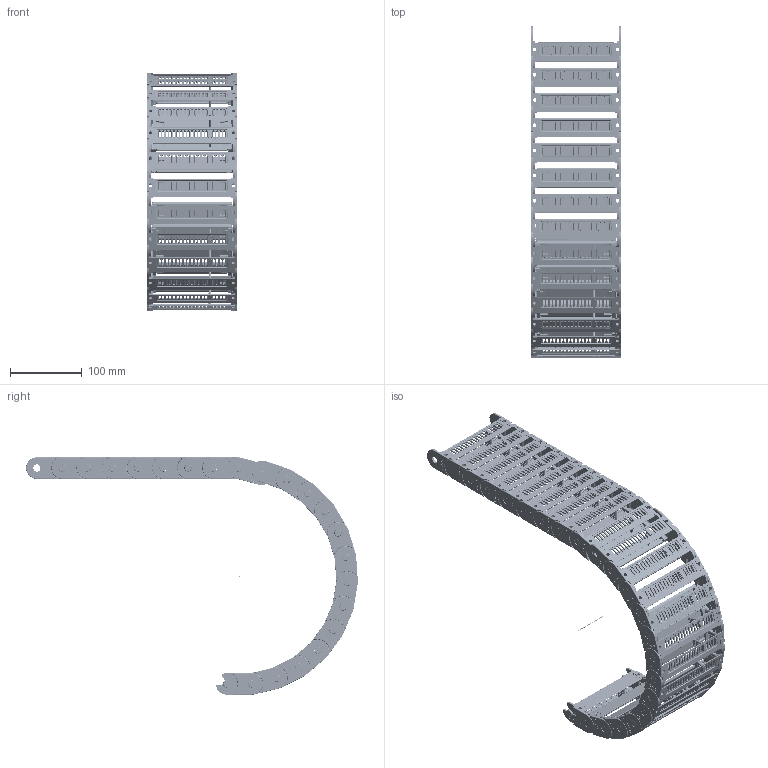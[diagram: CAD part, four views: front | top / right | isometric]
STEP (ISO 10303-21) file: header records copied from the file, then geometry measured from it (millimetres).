
FILE_DESCRIPTION((''),'2;1');
FILE_NAME('C:\Uebbing\PARAMETERKETTEN\KOLIBRI\Kol_30_125_0\Kol 30_125_0_R150.stp','2012-03-05T12:28:31',('Uebbing'),(''),'Autodesk Inventor 10','Autodesk Inventor 10','');
FILE_SCHEMA(('AUTOMOTIVE_DESIGN { 1 0 10303 214 1 1 1 1 }'));
Length unit declared in the file: millimetre
Products named in the file (6): KOLIBRI 30_125_0_PARAMETRISCH; Achse; Kol_30_125_0; PZ 30 Stecksteg; Kol_30_125_0_Klappsteg; Kol 30_125_0 Lasche
Assembly tree (26 placements, depth 3):
  KOLIBRI 30_125_0_PARAMETRISCH
    Achse
    Kol_30_125_0  x22
      PZ 30 Stecksteg
      Kol_30_125_0_Klappsteg
      Kol 30_125_0 Lasche
Bounding box: 125 x 461.11 x 330 mm (x, y, z)
Volume: 519010.1 mm3; surface area: 500597 mm2
Topology: 67 solids, 67 shells, 27173 faces, 73880 edges, 47347 vertices
Faces by surface type: plane 13510, cylinder 6755, bspline 3102, torus 2882, cone 792, sphere 132
Full cylindrical faces by diameter (mm): 1 x1, 1.166 x22, 2.048 x22, 2.8 x176, 5.1 x44, 10 x44, 10.1 x44
Entity records: 43148 total; most frequent: CARTESIAN_POINT 12078, ORIENTED_EDGE 6636, DIRECTION 6216, EDGE_CURVE 3318, VERTEX_POINT 2140, AXIS2_PLACEMENT_3D 2119, VECTOR 1978, LINE 1978
